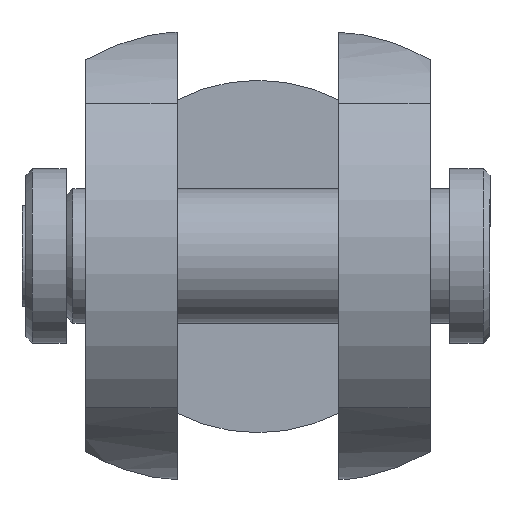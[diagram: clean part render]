
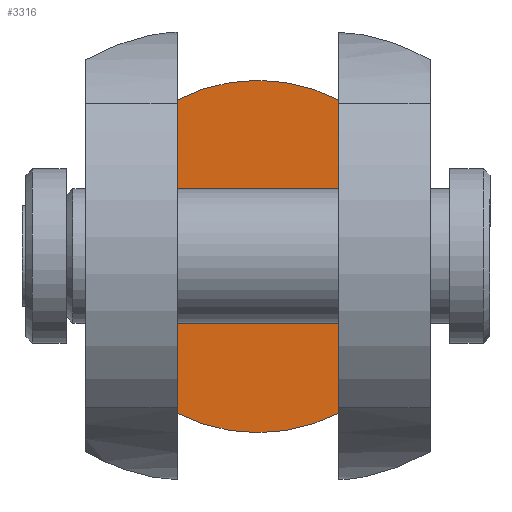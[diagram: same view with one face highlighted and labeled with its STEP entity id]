
A CAD part, top view. The second image highlights one B-rep face of the part: STEP entity #3316.
In plain terms, the highlighted planar face has unit normal (0, 0, 1).
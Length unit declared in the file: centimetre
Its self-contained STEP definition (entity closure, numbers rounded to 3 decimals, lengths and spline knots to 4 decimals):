
#46=LINE('',#4622,#394);
#47=LINE('',#4623,#395);
#394=VECTOR('',#3784,2.3279);
#395=VECTOR('',#3785,2.3279);
#799=PLANE('',#3522);
#1002=FACE_OUTER_BOUND('',#1200,.T.);
#1200=EDGE_LOOP('',(#2268,#2269,#2270,#2271));
#1397=CIRCLE('',#3492,1.3095);
#1398=CIRCLE('',#3493,1.3095);
#1443=VERTEX_POINT('',#4484);
#1444=VERTEX_POINT('',#4488);
#1449=VERTEX_POINT('',#4520);
#1450=VERTEX_POINT('',#4524);
#1752=EDGE_CURVE('',#1443,#1444,#1397,.T.);
#1758=EDGE_CURVE('',#1449,#1450,#1398,.T.);
#1790=EDGE_CURVE('',#1443,#1450,#46,.T.);
#1791=EDGE_CURVE('',#1444,#1449,#47,.T.);
#2268=ORIENTED_EDGE('',*,*,#1752,.F.);
#2269=ORIENTED_EDGE('',*,*,#1790,.T.);
#2270=ORIENTED_EDGE('',*,*,#1758,.F.);
#2271=ORIENTED_EDGE('',*,*,#1791,.F.);
#3316=ADVANCED_FACE('',(#1002),#799,.F.);
#3492=AXIS2_PLACEMENT_3D('',#4489,#3710,#3711);
#3493=AXIS2_PLACEMENT_3D('',#4525,#3712,#3713);
#3522=AXIS2_PLACEMENT_3D('',#4621,#3782,#3783);
#3710=DIRECTION('center_axis',(0.,0.,
-1.));
#3711=DIRECTION('ref_axis',(0.,-1.,0.));
#3712=DIRECTION('center_axis',(0.,0.,
-1.));
#3713=DIRECTION('ref_axis',(0.,-1.,0.));
#3782=DIRECTION('center_axis',(0.,0.,
-1.));
#3783=DIRECTION('ref_axis',(-1.,0.,0.));
#3784=DIRECTION('',(0.,1.,0.));
#3785=DIRECTION('',(0.,1.,0.));
#4484=CARTESIAN_POINT('',(0.6,-1.1639,-2.25));
#4488=CARTESIAN_POINT('',(-0.6,-1.1639,-2.25));
#4489=CARTESIAN_POINT('Origin',(0.,0.,
-2.25));
#4520=CARTESIAN_POINT('',(-0.6,1.1639,-2.25));
#4524=CARTESIAN_POINT('',(0.6,1.1639,-2.25));
#4525=CARTESIAN_POINT('Origin',(0.,0.,
-2.25));
#4621=CARTESIAN_POINT('Origin',(0.6,0.,-2.25));
#4622=CARTESIAN_POINT('',(0.6,0.,-2.25));
#4623=CARTESIAN_POINT('',(-0.6,0.,-2.25));
